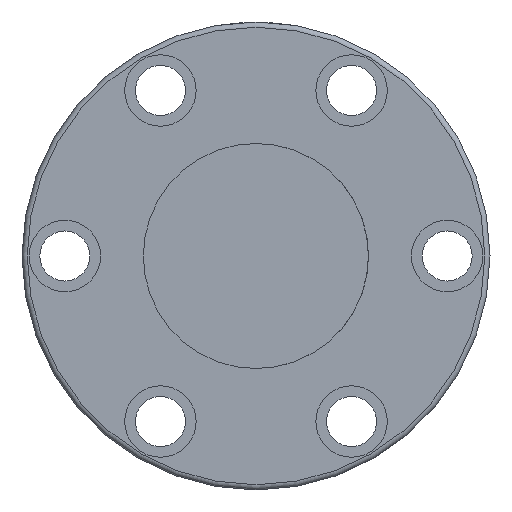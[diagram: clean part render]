
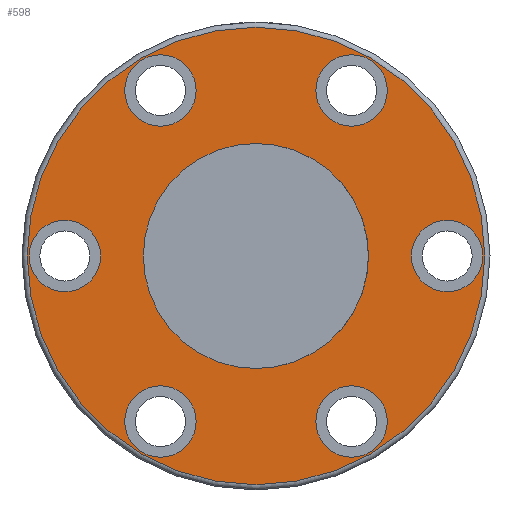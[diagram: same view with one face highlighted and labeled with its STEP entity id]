
A CAD part, front view. The second image highlights one B-rep face of the part: STEP entity #598.
In plain terms, the highlighted planar face has unit normal (0, -1, 0).
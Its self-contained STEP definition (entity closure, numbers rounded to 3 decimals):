
#4 = CARTESIAN_POINT ( 'NONE',  ( 26.789, -46.461, -36.332 ) ) ;
#24 = FACE_BOUND ( 'NONE', #413, .T. ) ;
#71 = EDGE_CURVE ( 'NONE', #992, #992, #125, .T. ) ;
#112 = FACE_BOUND ( 'NONE', #947, .T. ) ;
#121 = EDGE_CURVE ( 'NONE', #753, #753, #1129, .T. ) ;
#123 = DIRECTION ( 'NONE',  ( 0., 1., 0. ) ) ;
#125 = CIRCLE ( 'NONE', #327, 10. ) ;
#129 = AXIS2_PLACEMENT_3D ( 'NONE', #957, #1077, #434 ) ;
#138 = AXIS2_PLACEMENT_3D ( 'NONE', #676, #519, #777 ) ;
#158 = EDGE_CURVE ( 'NONE', #674, #674, #282, .T. ) ;
#163 = DIRECTION ( 'NONE',  ( 0., 0., 1. ) ) ;
#178 = EDGE_LOOP ( 'NONE', ( #1060 ) ) ;
#181 = CARTESIAN_POINT ( 'NONE',  ( 0.039, -46.461, 0. ) ) ;
#193 = AXIS2_PLACEMENT_3D ( 'NONE', #734, #1079, #776 ) ;
#208 = VERTEX_POINT ( 'NONE', #577 ) ;
#213 = CIRCLE ( 'NONE', #544, 64.033 ) ;
#216 = DIRECTION ( 'NONE',  ( 0., 0., 1. ) ) ;
#231 = CARTESIAN_POINT ( 'NONE',  ( -53.461, -46.461, 10. ) ) ;
#250 = AXIS2_PLACEMENT_3D ( 'NONE', #404, #123, #491 ) ;
#252 = ORIENTED_EDGE ( 'NONE', *, *, #71, .T. ) ;
#267 = DIRECTION ( 'NONE',  ( 0., 1., 0. ) ) ;
#282 = CIRCLE ( 'NONE', #372, 10. ) ;
#284 = FACE_BOUND ( 'NONE', #302, .T. ) ;
#289 = FACE_BOUND ( 'NONE', #848, .T. ) ;
#302 = EDGE_LOOP ( 'NONE', ( #1128 ) ) ;
#308 = DIRECTION ( 'NONE',  ( 0., 1., 0. ) ) ;
#327 = AXIS2_PLACEMENT_3D ( 'NONE', #672, #412, #761 ) ;
#362 = ORIENTED_EDGE ( 'NONE', *, *, #158, .T. ) ;
#372 = AXIS2_PLACEMENT_3D ( 'NONE', #687, #609, #163 ) ;
#375 = AXIS2_PLACEMENT_3D ( 'NONE', #894, #308, #1085 ) ;
#392 = EDGE_LOOP ( 'NONE', ( #865 ) ) ;
#394 = EDGE_CURVE ( 'NONE', #475, #475, #213, .T. ) ;
#402 = CIRCLE ( 'NONE', #888, 10. ) ;
#404 = CARTESIAN_POINT ( 'NONE',  ( 53.539, -46.461, 0. ) ) ;
#412 = DIRECTION ( 'NONE',  ( 0., 1., 0. ) ) ;
#413 = EDGE_LOOP ( 'NONE', ( #1055 ) ) ;
#427 = CIRCLE ( 'NONE', #129, 10. ) ;
#434 = DIRECTION ( 'NONE',  ( 0., 0., 1. ) ) ;
#475 = VERTEX_POINT ( 'NONE', #1105 ) ;
#485 = EDGE_CURVE ( 'NONE', #821, #821, #402, .T. ) ;
#491 = DIRECTION ( 'NONE',  ( 0., 0., 1. ) ) ;
#519 = DIRECTION ( 'NONE',  ( 0., 1., 0. ) ) ;
#544 = AXIS2_PLACEMENT_3D ( 'NONE', #181, #635, #867 ) ;
#549 = FACE_BOUND ( 'NONE', #178, .T. ) ;
#562 = FACE_OUTER_BOUND ( 'NONE', #604, .T. ) ;
#563 = EDGE_CURVE ( 'NONE', #208, #208, #605, .T. ) ;
#577 = CARTESIAN_POINT ( 'NONE',  ( 53.539, -46.461, 10. ) ) ;
#598 = ADVANCED_FACE ( 'NONE', ( #24, #645, #822, #549, #289, #112, #562, #284 ), #754, .F. ) ;
#604 = EDGE_LOOP ( 'NONE', ( #969 ) ) ;
#605 = CIRCLE ( 'NONE', #250, 10. ) ;
#609 = DIRECTION ( 'NONE',  ( 0., 1., 0. ) ) ;
#635 = DIRECTION ( 'NONE',  ( 0., -1., 0. ) ) ;
#645 = FACE_BOUND ( 'NONE', #958, .T. ) ;
#672 = CARTESIAN_POINT ( 'NONE',  ( -26.711, -46.461, 46.332 ) ) ;
#674 = VERTEX_POINT ( 'NONE', #929 ) ;
#675 = EDGE_CURVE ( 'NONE', #999, #999, #688, .T. ) ;
#676 = CARTESIAN_POINT ( 'NONE',  ( -26.711, -46.461, -46.332 ) ) ;
#687 = CARTESIAN_POINT ( 'NONE',  ( 26.789, -46.461, 46.332 ) ) ;
#688 = CIRCLE ( 'NONE', #193, 31.5 ) ;
#734 = CARTESIAN_POINT ( 'NONE',  ( 0.039, -46.461, 0. ) ) ;
#740 = CARTESIAN_POINT ( 'NONE',  ( -26.711, -46.461, 56.332 ) ) ;
#753 = VERTEX_POINT ( 'NONE', #912 ) ;
#754 = PLANE ( 'NONE',  #375 ) ;
#761 = DIRECTION ( 'NONE',  ( 0., 0., 1. ) ) ;
#776 = DIRECTION ( 'NONE',  ( -1., 0., 0. ) ) ;
#777 = DIRECTION ( 'NONE',  ( 0., 0., 1. ) ) ;
#790 = VERTEX_POINT ( 'NONE', #4 ) ;
#821 = VERTEX_POINT ( 'NONE', #231 ) ;
#822 = FACE_BOUND ( 'NONE', #392, .T. ) ;
#848 = EDGE_LOOP ( 'NONE', ( #362 ) ) ;
#865 = ORIENTED_EDGE ( 'NONE', *, *, #1084, .T. ) ;
#867 = DIRECTION ( 'NONE',  ( 0., 0., 1. ) ) ;
#886 = ORIENTED_EDGE ( 'NONE', *, *, #485, .T. ) ;
#888 = AXIS2_PLACEMENT_3D ( 'NONE', #1046, #267, #216 ) ;
#894 = CARTESIAN_POINT ( 'NONE',  ( 0.039, -46.461, 0. ) ) ;
#912 = CARTESIAN_POINT ( 'NONE',  ( -26.711, -46.461, -36.332 ) ) ;
#917 = CARTESIAN_POINT ( 'NONE',  ( -31.461, -46.461, 0. ) ) ;
#929 = CARTESIAN_POINT ( 'NONE',  ( 26.789, -46.461, 56.332 ) ) ;
#947 = EDGE_LOOP ( 'NONE', ( #252 ) ) ;
#957 = CARTESIAN_POINT ( 'NONE',  ( 26.789, -46.461, -46.332 ) ) ;
#958 = EDGE_LOOP ( 'NONE', ( #886 ) ) ;
#969 = ORIENTED_EDGE ( 'NONE', *, *, #394, .T. ) ;
#992 = VERTEX_POINT ( 'NONE', #740 ) ;
#999 = VERTEX_POINT ( 'NONE', #917 ) ;
#1046 = CARTESIAN_POINT ( 'NONE',  ( -53.461, -46.461, 0. ) ) ;
#1055 = ORIENTED_EDGE ( 'NONE', *, *, #563, .T. ) ;
#1060 = ORIENTED_EDGE ( 'NONE', *, *, #121, .T. ) ;
#1077 = DIRECTION ( 'NONE',  ( 0., 1., 0. ) ) ;
#1079 = DIRECTION ( 'NONE',  ( 0., 1., 0. ) ) ;
#1084 = EDGE_CURVE ( 'NONE', #790, #790, #427, .T. ) ;
#1085 = DIRECTION ( 'NONE',  ( 1., 0., 0. ) ) ;
#1105 = CARTESIAN_POINT ( 'NONE',  ( 0.039, -46.461, 64.033 ) ) ;
#1128 = ORIENTED_EDGE ( 'NONE', *, *, #675, .T. ) ;
#1129 = CIRCLE ( 'NONE', #138, 10. ) ;
